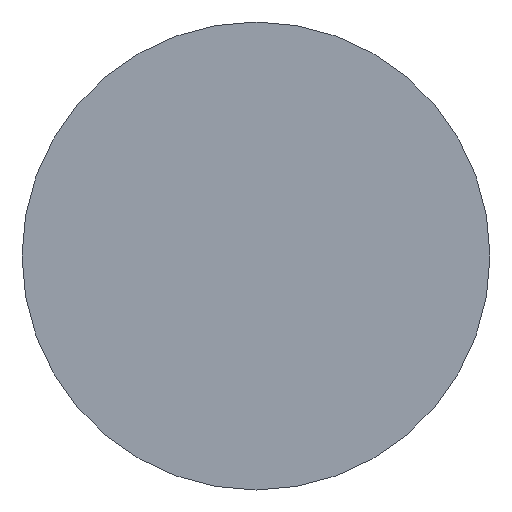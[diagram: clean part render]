
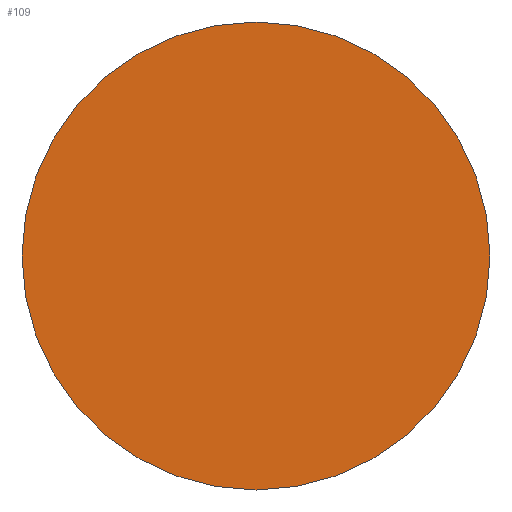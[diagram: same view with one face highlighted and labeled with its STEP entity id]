
A CAD part, left-side view. The second image highlights one B-rep face of the part: STEP entity #109.
In plain terms, the highlighted planar face has unit normal (-1, 0, 0).
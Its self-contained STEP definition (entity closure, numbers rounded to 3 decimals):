
#31 = CYLINDRICAL_SURFACE('',#32,0.98);
#32 = AXIS2_PLACEMENT_3D('',#33,#34,#35);
#33 = CARTESIAN_POINT('',(-73.,0.,80.));
#34 = DIRECTION('',(1.,0.,0.));
#35 = DIRECTION('',(-0.,0.,1.));
#56 = VERTEX_POINT('',#57);
#57 = CARTESIAN_POINT('',(-73.,0.,80.98));
#78 = EDGE_CURVE('',#56,#56,#79,.T.);
#79 = SURFACE_CURVE('',#80,(#85,#92),.PCURVE_S1.);
#80 = CIRCLE('',#81,0.98);
#81 = AXIS2_PLACEMENT_3D('',#82,#83,#84);
#82 = CARTESIAN_POINT('',(-73.,0.,80.));
#83 = DIRECTION('',(1.,0.,0.));
#84 = DIRECTION('',(-0.,0.,1.));
#85 = PCURVE('',#31,#86);
#86 = DEFINITIONAL_REPRESENTATION('',(#87),#91);
#87 = LINE('',#88,#89);
#88 = CARTESIAN_POINT('',(0.,0.));
#89 = VECTOR('',#90,1.);
#90 = DIRECTION('',(1.,0.));
#91 = ( GEOMETRIC_REPRESENTATION_CONTEXT(2) 
PARAMETRIC_REPRESENTATION_CONTEXT() REPRESENTATION_CONTEXT('2D SPACE',''
  ) );
#92 = PCURVE('',#93,#98);
#93 = PLANE('',#94);
#94 = AXIS2_PLACEMENT_3D('',#95,#96,#97);
#95 = CARTESIAN_POINT('',(-73.,0.,80.));
#96 = DIRECTION('',(1.,0.,0.));
#97 = DIRECTION('',(-0.,0.,1.));
#98 = DEFINITIONAL_REPRESENTATION('',(#99),#103);
#99 = CIRCLE('',#100,0.98);
#100 = AXIS2_PLACEMENT_2D('',#101,#102);
#101 = CARTESIAN_POINT('',(0.,0.));
#102 = DIRECTION('',(1.,0.));
#103 = ( GEOMETRIC_REPRESENTATION_CONTEXT(2) 
PARAMETRIC_REPRESENTATION_CONTEXT() REPRESENTATION_CONTEXT('2D SPACE',''
  ) );
#109 = ADVANCED_FACE('',(#110),#93,.F.);
#110 = FACE_BOUND('',#111,.T.);
#111 = EDGE_LOOP('',(#112));
#112 = ORIENTED_EDGE('',*,*,#78,.F.);
